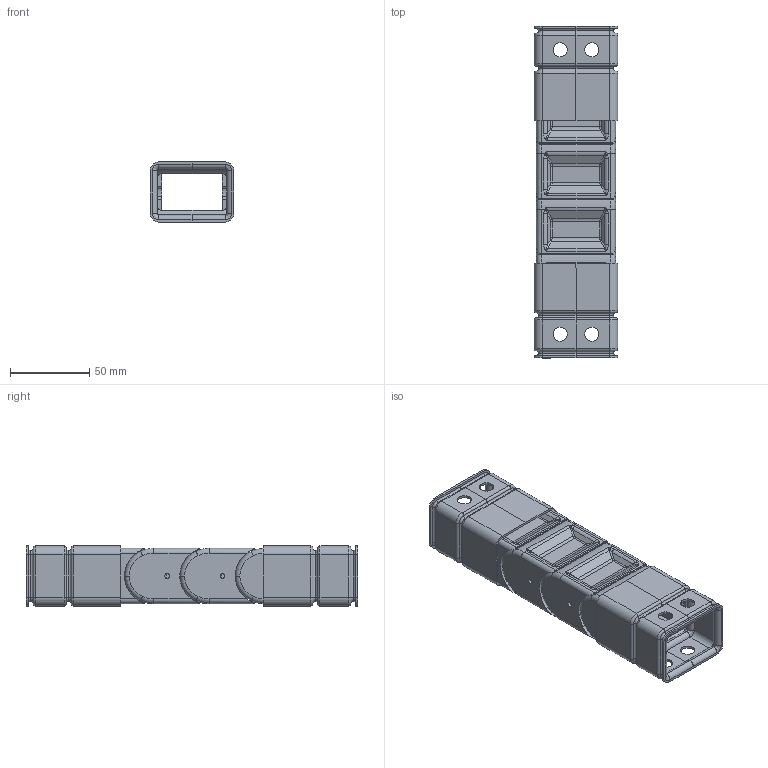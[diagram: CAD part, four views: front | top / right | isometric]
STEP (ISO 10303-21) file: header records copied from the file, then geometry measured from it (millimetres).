
FILE_DESCRIPTION((''),'2;1');
FILE_NAME('E:\Uebbing\temp\PFR 122\PFR 122 Normalanschluss.stp','2010-08-16T11:15:45',('UebbingXP'),(''),'Autodesk Inventor 10','Autodesk Inventor 10','');
FILE_SCHEMA(('AUTOMOTIVE_DESIGN { 1 0 10303 214 1 1 1 1 }'));
Length unit declared in the file: millimetre
Products named in the file (5): PFR 122 Normalanschluss; PFR 122 H Normalanschluss; PFR122-75 gesägt ; PFR122-75; PFR122-75 gesägt2 
Assembly tree (6 placements, depth 2):
  PFR 122 Normalanschluss
    PFR 122 H Normalanschluss  x2
    PFR122-75 gesägt 
    PFR122-75  x2
    PFR122-75 gesägt2 
Bounding box: 53 x 209.86 x 38 mm (x, y, z)
Volume: 110022.3 mm3; surface area: 100377.2 mm2
Topology: 6 solids, 6 shells, 1133 faces, 2714 edges, 1562 vertices
Faces by surface type: bspline 572, cylinder 286, plane 213, torus 62
Full cylindrical faces by diameter (mm): 9 x8
Entity records: 32053 total; most frequent: CARTESIAN_POINT 16213, ORIENTED_EDGE 3456, DIRECTION 2994, EDGE_CURVE 1728, AXIS2_PLACEMENT_3D 1083, VERTEX_POINT 1020, VECTOR 828, LINE 828
